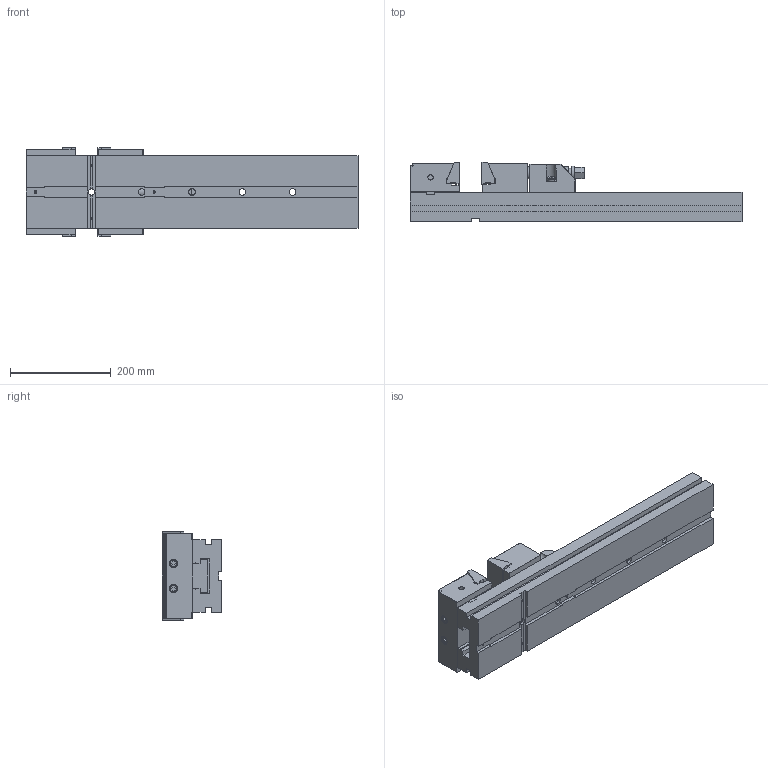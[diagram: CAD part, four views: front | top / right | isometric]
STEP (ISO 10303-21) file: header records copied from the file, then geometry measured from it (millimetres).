
FILE_DESCRIPTION(/* description */ (''),/* implementation_level */ '2;1');
FILE_NAME(/* name */ '',/* time_stamp */ '2025-07-11T15:54:36+03:00',/* author */ ('User'),/* organization */ (''),/* preprocessor_version */ 'ST-DEVELOPER v19.2',/* originating_system */ 'Autodesk Inventor 2024',/* authorisation */ '');
FILE_SCHEMA (('AUTOMOTIVE_DESIGN { 1 0 10303 214 3 1 1 }'));
Length unit declared in the file: millimetre
Products named in the file (5): Тиски GT125; Станина; Винт; Подвижная часть; Упор с шаром
Assembly tree (4 placements, depth 2):
  Тиски GT125
    Станина
    Винт
    Подвижная часть
    Упор с шаром
Bounding box: 660 x 118 x 175 mm (x, y, z)
Volume: 6191206.2 mm3; surface area: 634002.6 mm2
Topology: 6 solids, 6 shells, 538 faces, 1337 edges, 865 vertices
Faces by surface type: plane 388, cylinder 87, cone 57, bspline 5, sphere 1
Full cylindrical faces by diameter (mm): 4.134 x4, 10 x15, 10.6 x2, 10.8 x4, 11 x4, 13 x9, 14 x3, 15 x4, 16 x4, 18 x3, 20 x6, 21 x1, 24 x5, 26 x4, 27 x1
Entity records: 16211 total; most frequent: CARTESIAN_POINT 2884, ORIENTED_EDGE 2638, DIRECTION 2632, EDGE_CURVE 1319, LINE 1058, VECTOR 1058, VERTEX_POINT 865, AXIS2_PLACEMENT_3D 787
